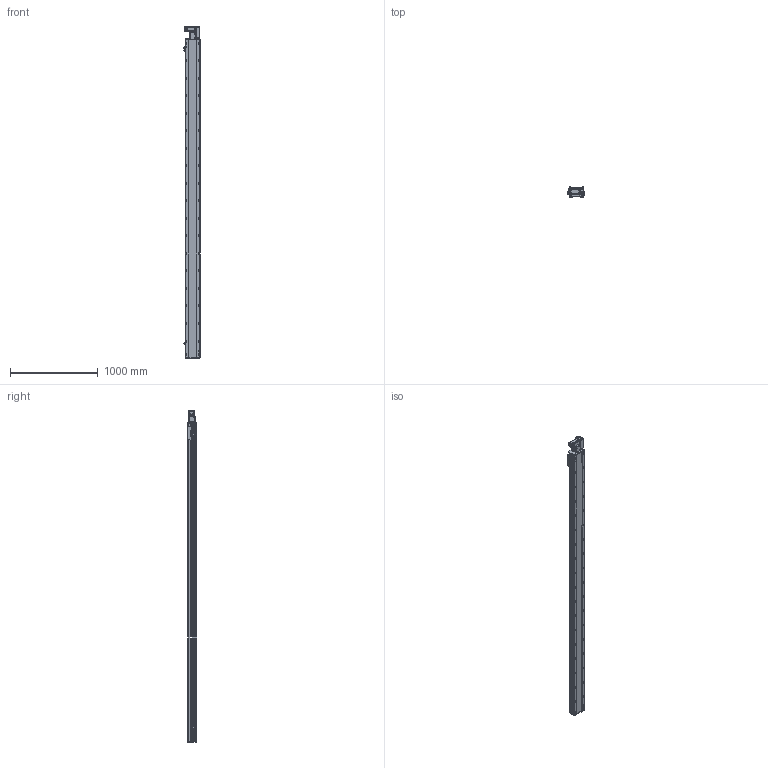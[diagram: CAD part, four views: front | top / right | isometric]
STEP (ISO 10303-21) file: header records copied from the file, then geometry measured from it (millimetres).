
FILE_DESCRIPTION (( 'STEP AP214' ), '1' );
FILE_NAME ('RTB17S-XX-3350-R-M40-C4.STEP', '2025-12-11T08:00:46', ( '' ), ( '' ), 'SwSTEP 2.0', 'SolidWorks 2018', '' );
FILE_SCHEMA (( 'AUTOMOTIVE_DESIGN' ));
Length unit declared in the file: millimetre
Products named in the file (14): RTB14-L-018P^RTB17S-R-々湍釱蚾饜-400W_RTB17S-XX-XX-R-M40-C4; RTB17S-L-004佪裝蹟譫蟀諉釱^RTB17S-XX-XX-R-M40-C4; RTB17S-L-007奻裔^RTB17S-XX-XX-R-M40-C4; OMRON EE-SX672 传感器^RTB17S-XX-XX-R-M40-C4; RTB14-L-017P^RTB17S-R-々湍釱蚾饜-400W_RTB17S-XX-XX-R-M40-C4; RTB17-R-011菁釱^RTB17S-XX-XX-R-M40-C4; RTB17S-L-001耜醱啣^RTB17S-XX-XX-R-M40-C4; RTB14-L-005P--轴承塑胶压盖^RTB17S-R-皮带座装配-400W_RTB17S-XX-XX-R-M40-C4; RTB17S-L-014-T20--々湍釱^RTB17S-R-々湍釱蚾饜-400W_RTB17S-XX-XX-R-M40-C4; RTB17S-XX-3350-R-M40-C4; 400W侜督萇儂^RTB17S-XX-XX-R-M40-C4; RTB14-L-008-M20--萇儂啣^RTB17S-R-々湍釱蚾饜-400W_RTB17S-XX-XX-R-M40-C4; RTB17S-R-々湍釱蚾饜-400W^RTB17S-XX-XX-R-M40-C4; RTH13-BL-012覜茼え俋离^RTB17S-XX-XX-R-M40-C4
Assembly tree (16 placements, depth 3):
  RTB17S-XX-3350-R-M40-C4
    RTB17-R-011菁釱^RTB17S-XX-XX-R-M40-C4
    RTB17S-L-007奻裔^RTB17S-XX-XX-R-M40-C4
    OMRON EE-SX672 传感器^RTB17S-XX-XX-R-M40-C4  x3
    RTB17S-L-001耜醱啣^RTB17S-XX-XX-R-M40-C4
    400W侜督萇儂^RTB17S-XX-XX-R-M40-C4
    RTB17S-L-004佪裝蹟譫蟀諉釱^RTB17S-XX-XX-R-M40-C4
    RTH13-BL-012覜茼え俋离^RTB17S-XX-XX-R-M40-C4
    RTB17S-R-々湍釱蚾饜-400W^RTB17S-XX-XX-R-M40-C4
      RTB17S-L-014-T20--々湍釱^RTB17S-R-々湍釱蚾饜-400W_RTB17S-XX-XX-R-M40-C4
      RTB14-L-005P--轴承塑胶压盖^RTB17S-R-皮带座装配-400W_RTB17S-XX-XX-R-M40-C4
      RTB14-L-008-M20--萇儂啣^RTB17S-R-々湍釱蚾饜-400W_RTB17S-XX-XX-R-M40-C4
      RTB14-L-017P^RTB17S-R-々湍釱蚾饜-400W_RTB17S-XX-XX-R-M40-C4  x2
      RTB14-L-018P^RTB17S-R-々湍釱蚾饜-400W_RTB17S-XX-XX-R-M40-C4
Bounding box: 183.5 x 108 x 3791 mm (x, y, z)
Volume: 31538391.4 mm3; surface area: 3587899.6 mm2
Topology: 15 solids, 15 shells, 2397 faces, 6735 edges, 4401 vertices
Faces by surface type: plane 1092, cylinder 857, bspline 301, cone 139, torus 8
Entity records: 71849 total; most frequent: CARTESIAN_POINT 20540, ORIENTED_EDGE 10314, DIRECTION 9476, EDGE_CURVE 5157, VERTEX_POINT 3389, AXIS2_PLACEMENT_3D 3319, VECTOR 2838, LINE 2838
